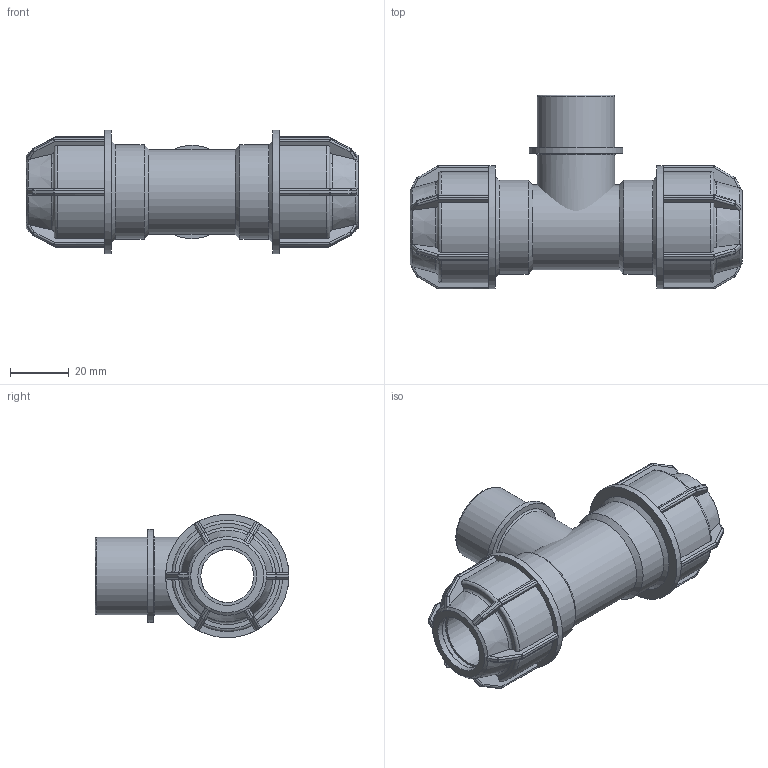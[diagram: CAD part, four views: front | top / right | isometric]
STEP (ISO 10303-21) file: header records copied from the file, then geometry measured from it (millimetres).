
FILE_DESCRIPTION(/* description */ ('PLASSON L.14 TEE MALE ADAPTOR (SILVER) 20-3/4"-20'),/* implementation_level */ '2;1');
FILE_NAME(/* name */ 'C:\Dropbox\KIMPROJECTS-Inventor\99-16-3568-Processing\Silver+MF ISRAEL\148400\148400020007.ipt.stp',/* time_stamp */ '2018-04-09T13:05:20+03:00',/* author */ ('KIM'),/* organization */ (''),/* preprocessor_version */ 'ST-DEVELOPER v15.6',/* originating_system */ 'Autodesk Inventor 2015',/* authorisation */ '');
FILE_SCHEMA (('AUTOMOTIVE_DESIGN { 1 0 10303 214 3 1 1 }'));
Length unit declared in the file: millimetre
Products named in the file (1): 148400020007
Bounding box: 113 x 66 x 42 mm (x, y, z)
Volume: 75156.4 mm3; surface area: 29564 mm2
Topology: 2 solids, 2 shells, 417 faces, 997 edges, 574 vertices
Faces by surface type: plane 197, cylinder 124, sphere 48, torus 30, cone 18
Full cylindrical faces by diameter (mm): 18 x3, 20 x4, 26.441 x2, 28.8 x1, 31.729 x1, 32 x2, 42 x2
Entity records: 12137 total; most frequent: CARTESIAN_POINT 3170, DIRECTION 1886, ORIENTED_EDGE 1836, EDGE_CURVE 918, AXIS2_PLACEMENT_3D 762, VERTEX_POINT 544, EDGE_LOOP 454, FACE_OUTER_BOUND 413
